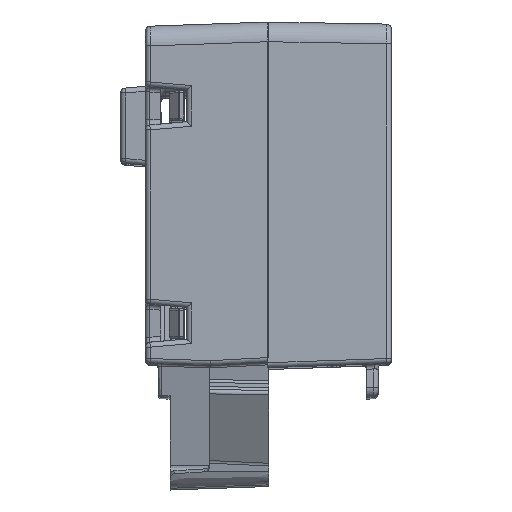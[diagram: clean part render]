
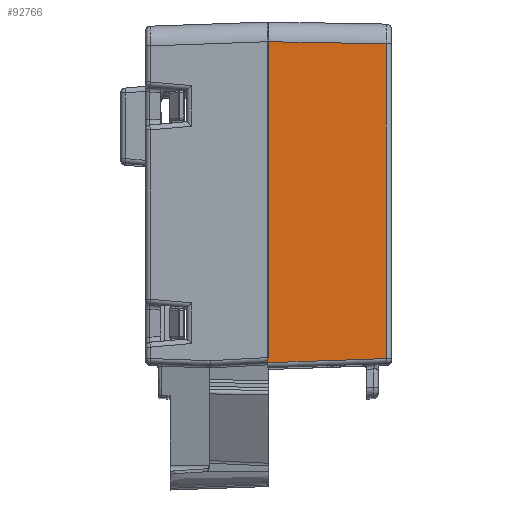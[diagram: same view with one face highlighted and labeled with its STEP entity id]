
A CAD part, top view. The second image highlights one B-rep face of the part: STEP entity #92766.
In plain terms, the highlighted planar face has unit normal (0.018, 0, 1).
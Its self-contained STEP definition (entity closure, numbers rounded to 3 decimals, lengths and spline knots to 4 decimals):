
#6225=FACE_OUTER_BOUND('',#11144,.T.);
#11144=EDGE_LOOP('',(#63118,#63119,#63120,#63121,#63122,#63123,#63124,#63125,
#63126,#63127,#63128,#63129,#63130));
#16662=LINE('',#138581,#26279);
#16733=LINE('',#138789,#26350);
#16738=LINE('',#138802,#26355);
#16741=LINE('',#138813,#26358);
#16743=LINE('',#138816,#26360);
#16753=LINE('',#138859,#26370);
#17117=LINE('',#141592,#26734);
#17118=LINE('',#141594,#26735);
#17119=LINE('',#141596,#26736);
#17120=LINE('',#141598,#26737);
#17121=LINE('',#141599,#26738);
#26279=VECTOR('',#108686,0.3937);
#26350=VECTOR('',#108867,0.3937);
#26355=VECTOR('',#108878,0.3937);
#26358=VECTOR('',#108895,0.3937);
#26360=VECTOR('',#108899,0.3937);
#26370=VECTOR('',#108943,0.3937);
#26734=VECTOR('',#110447,39.3701);
#26735=VECTOR('',#110448,39.3701);
#26736=VECTOR('',#110449,39.3701);
#26737=VECTOR('',#110450,39.3701);
#26738=VECTOR('',#110451,39.3701);
#34775=ELLIPSE('',#97376,0.5648,0.0197);
#34992=ELLIPSE('',#98196,2.2576,0.0787);
#36613=VERTEX_POINT('',#133942);
#36614=VERTEX_POINT('',#133943);
#37110=VERTEX_POINT('',#138580);
#37166=VERTEX_POINT('',#138788);
#37170=VERTEX_POINT('',#138800);
#37171=VERTEX_POINT('',#138801);
#37172=VERTEX_POINT('',#138812);
#37188=VERTEX_POINT('',#138858);
#37193=VERTEX_POINT('',#138973);
#37668=VERTEX_POINT('',#141591);
#37669=VERTEX_POINT('',#141593);
#37670=VERTEX_POINT('',#141595);
#37671=VERTEX_POINT('',#141597);
#45446=EDGE_CURVE('',#36613,#36614,#34775,.T.);
#46369=EDGE_CURVE('',#36614,#37110,#16662,.T.);
#46458=EDGE_CURVE('',#37166,#36613,#16733,.T.);
#46464=EDGE_CURVE('',#37170,#37171,#16738,.T.);
#46467=EDGE_CURVE('',#37172,#37170,#16741,.T.);
#46469=EDGE_CURVE('',#37171,#37166,#16743,.T.);
#46491=EDGE_CURVE('',#37188,#37172,#16753,.T.);
#46546=EDGE_CURVE('',#37110,#37193,#34992,.T.);
#47243=EDGE_CURVE('',#37668,#37193,#17117,.T.);
#47244=EDGE_CURVE('',#37669,#37668,#17118,.T.);
#47245=EDGE_CURVE('',#37670,#37669,#17119,.T.);
#47246=EDGE_CURVE('',#37671,#37670,#17120,.T.);
#47247=EDGE_CURVE('',#37188,#37671,#17121,.T.);
#63118=ORIENTED_EDGE('',*,*,#46464,.T.);
#63119=ORIENTED_EDGE('',*,*,#46469,.T.);
#63120=ORIENTED_EDGE('',*,*,#46458,.T.);
#63121=ORIENTED_EDGE('',*,*,#45446,.T.);
#63122=ORIENTED_EDGE('',*,*,#46369,.T.);
#63123=ORIENTED_EDGE('',*,*,#46546,.T.);
#63124=ORIENTED_EDGE('',*,*,#47243,.F.);
#63125=ORIENTED_EDGE('',*,*,#47244,.F.);
#63126=ORIENTED_EDGE('',*,*,#47245,.F.);
#63127=ORIENTED_EDGE('',*,*,#47246,.F.);
#63128=ORIENTED_EDGE('',*,*,#47247,.F.);
#63129=ORIENTED_EDGE('',*,*,#46491,.T.);
#63130=ORIENTED_EDGE('',*,*,#46467,.T.);
#84406=PLANE('',#98670);
#92766=ADVANCED_FACE('',(#6225),#84406,.T.);
#97376=AXIS2_PLACEMENT_3D('',#133944,#106874,#106875);
#98196=AXIS2_PLACEMENT_3D('',#138974,#109136,#109137);
#98670=AXIS2_PLACEMENT_3D('',#141590,#110445,#110446);
#106874=DIRECTION('center_axis',(-0.017,0.,
-1.));
#106875=DIRECTION('ref_axis',(0.998,0.052,-0.017));
#108686=DIRECTION('',(0.,1.,0.));
#108867=DIRECTION('',(0.,-1.,0.));
#108878=DIRECTION('',(0.,-1.,0.));
#108895=DIRECTION('',(0.,-1.,0.));
#108899=DIRECTION('',(0.,-1.,0.));
#108943=DIRECTION('',(0.,-1.,0.));
#109136=DIRECTION('center_axis',(-0.017,0.,
-1.));
#109137=DIRECTION('ref_axis',(0.999,0.035,-0.017));
#110445=DIRECTION('center_axis',(0.017,0.,
1.));
#110446=DIRECTION('ref_axis',(-1.,0.,0.017));
#110447=DIRECTION('',(1.,-0.017,-0.017));
#110448=DIRECTION('',(0.,1.,0.));
#110449=DIRECTION('',(-0.999,-0.035,0.017));
#110450=DIRECTION('',(0.,-1.,0.));
#110451=DIRECTION('',(1.,-0.017,-0.017));
#133942=CARTESIAN_POINT('',(0.4724,-0.8305,0.1279));
#133943=CARTESIAN_POINT('',(0.4705,-0.829,0.1279));
#133944=CARTESIAN_POINT('Origin',(1.0344,-0.7994,0.1181));
#138580=CARTESIAN_POINT('',(0.4705,0.4299,0.1279));
#138581=CARTESIAN_POINT('',(0.4705,-0.1878,0.1279));
#138788=CARTESIAN_POINT('',(0.4724,-0.7608,0.1279));
#138789=CARTESIAN_POINT('',(0.4724,-0.5285,0.1279));
#138800=CARTESIAN_POINT('',(0.4724,0.1054,0.1279));
#138801=CARTESIAN_POINT('',(0.4724,-0.6234,0.1279));
#138802=CARTESIAN_POINT('',(0.4724,-0.5285,0.1279));
#138812=CARTESIAN_POINT('',(0.4724,0.2428,0.1279));
#138813=CARTESIAN_POINT('',(0.4724,0.0246,0.1279));
#138816=CARTESIAN_POINT('',(0.4724,-0.4085,0.1279));
#138858=CARTESIAN_POINT('',(0.4724,0.4299,0.1279));
#138859=CARTESIAN_POINT('',(0.4724,-0.5285,0.1279));
#138973=CARTESIAN_POINT('',(0.4705,0.4299,0.1279));
#138974=CARTESIAN_POINT('Origin',(2.7263,0.5086,0.0885));
#141590=CARTESIAN_POINT('Origin',(0.4685,-0.1879,0.128));
#141591=CARTESIAN_POINT('',(0.4685,0.43,0.128));
#141592=CARTESIAN_POINT('',(0.4793,0.4298,0.1278));
#141593=CARTESIAN_POINT('',(0.4685,-0.8496,0.128));
#141594=CARTESIAN_POINT('',(0.4685,-0.1879,0.128));
#141595=CARTESIAN_POINT('',(0.9413,-0.8331,0.1197));
#141596=CARTESIAN_POINT('',(0.4678,-0.8496,0.128));
#141597=CARTESIAN_POINT('',(0.9413,0.4217,0.1197));
#141598=CARTESIAN_POINT('',(0.9413,-0.1879,0.1197));
#141599=CARTESIAN_POINT('',(0.4793,0.4298,0.1278));
